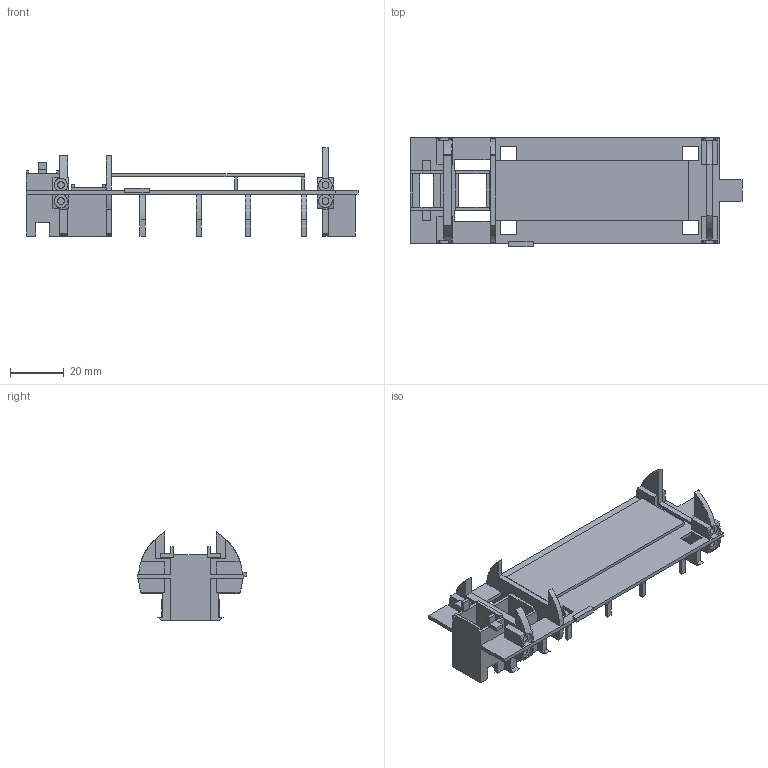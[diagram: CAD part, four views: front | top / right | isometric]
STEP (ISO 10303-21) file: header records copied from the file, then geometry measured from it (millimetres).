
FILE_DESCRIPTION(('Open CASCADE Model'),'2;1');
FILE_NAME('Open CASCADE Shape Model','2026-11-11T07:15:17',('Author'),( 'Open CASCADE'),'Open CASCADE STEP processor 8.0','build123d', 'Unknown');
FILE_SCHEMA(('AUTOMOTIVE_DESIGN { 1 0 10303 214 1 1 1 1 }'));
Length unit declared in the file: millimetre
Products named in the file (1): COMPOUND
Bounding box: 123.55 x 40.8 x 32.8 mm (x, y, z)
Volume: 16506 mm3; surface area: 21982.2 mm2
Topology: 1 solids, 1 shells, 322 faces, 914 edges, 606 vertices
Faces by surface type: plane 265, cylinder 57
Full cylindrical faces by diameter (mm): 2.5 x10, 5 x4
Entity records: 23255 total; most frequent: CARTESIAN_POINT 6062, DIRECTION 2813, ORIENTED_EDGE 1828, PCURVE 1828, DEFINITIONAL_REPRESENTATION 1828, LINE 1799, VECTOR 1799, EDGE_CURVE 914
